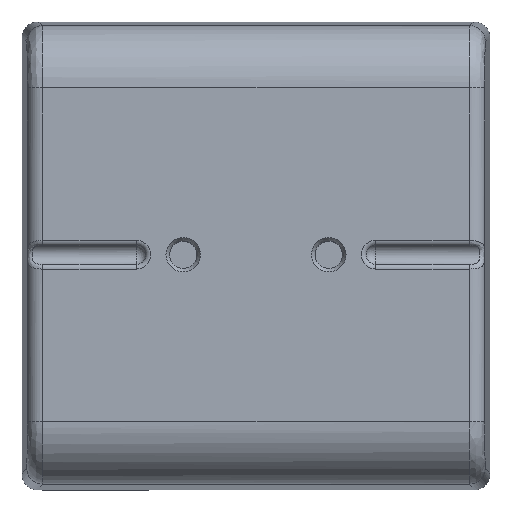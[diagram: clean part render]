
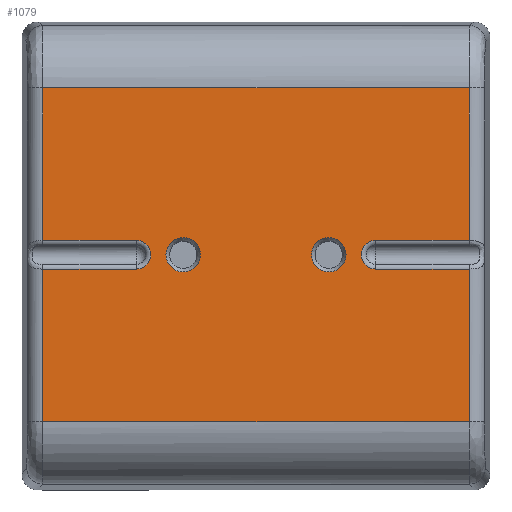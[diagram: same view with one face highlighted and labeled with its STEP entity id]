
A CAD part, top view. The second image highlights one B-rep face of the part: STEP entity #1079.
In plain terms, the highlighted planar face has unit normal (0, 0, 1).
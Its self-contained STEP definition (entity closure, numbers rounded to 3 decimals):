
#948=CARTESIAN_POINT('',(-1.75,4.316,63.627));
#949=VERTEX_POINT('',#948);
#950=CARTESIAN_POINT('',(-1.75,5.975,63.627));
#951=DIRECTION('',(0.0,0.0,1.0));
#952=DIRECTION('',(0.0,1.0,0.0));
#953=AXIS2_PLACEMENT_3D('',#950,#951,#952);
#954=CIRCLE('',#953,1.659);
#955=EDGE_CURVE('',#949,#949,#954,.T.);
#960=CARTESIAN_POINT('',(-8.75,5.975,63.627));
#961=DIRECTION('',(0.0,0.0,1.0));
#962=DIRECTION('',(1.0,0.0,0.0));
#963=AXIS2_PLACEMENT_3D('',#960,#961,#962);
#964=PLANE('',#963);
#965=CARTESIAN_POINT('',(11.761,7.35,63.627));
#966=VERTEX_POINT('',#965);
#967=CARTESIAN_POINT('',(2.75,7.35,63.627));
#968=VERTEX_POINT('',#967);
#969=CARTESIAN_POINT('',(11.761,7.35,63.627));
#970=DIRECTION('',(-1.0,0.0,0.0));
#971=VECTOR('',#970,9.011);
#972=LINE('',#969,#971);
#973=EDGE_CURVE('',#966,#968,#972,.T.);
#974=ORIENTED_EDGE('',*,*,#973,.F.);
#975=CARTESIAN_POINT('',(11.761,22.02,63.627));
#976=VERTEX_POINT('',#975);
#977=CARTESIAN_POINT('',(11.761,22.02,63.627));
#978=DIRECTION('',(0.0,-1.0,0.0));
#979=VECTOR('',#978,14.67);
#980=LINE('',#977,#979);
#981=EDGE_CURVE('',#976,#966,#980,.T.);
#982=ORIENTED_EDGE('',*,*,#981,.F.);
#983=CARTESIAN_POINT('',(-29.261,22.02,63.627));
#984=VERTEX_POINT('',#983);
#985=CARTESIAN_POINT('',(-29.261,22.02,63.627));
#986=DIRECTION('',(1.0,0.0,0.0));
#987=VECTOR('',#986,41.022);
#988=LINE('',#985,#987);
#989=EDGE_CURVE('',#984,#976,#988,.T.);
#990=ORIENTED_EDGE('',*,*,#989,.F.);
#991=CARTESIAN_POINT('',(-29.261,7.35,63.627));
#992=VERTEX_POINT('',#991);
#993=CARTESIAN_POINT('',(-29.261,7.35,63.627));
#994=DIRECTION('',(0.0,1.0,0.0));
#995=VECTOR('',#994,14.67);
#996=LINE('',#993,#995);
#997=EDGE_CURVE('',#992,#984,#996,.T.);
#998=ORIENTED_EDGE('',*,*,#997,.F.);
#999=CARTESIAN_POINT('',(-20.25,7.35,63.627));
#1000=VERTEX_POINT('',#999);
#1001=CARTESIAN_POINT('',(-20.25,7.35,63.627));
#1002=DIRECTION('',(-1.0,0.0,0.0));
#1003=VECTOR('',#1002,9.011);
#1004=LINE('',#1001,#1003);
#1005=EDGE_CURVE('',#1000,#992,#1004,.T.);
#1006=ORIENTED_EDGE('',*,*,#1005,.F.);
#1007=CARTESIAN_POINT('',(-20.25,4.6,63.627));
#1008=VERTEX_POINT('',#1007);
#1009=CARTESIAN_POINT('',(-20.25,5.975,63.627));
#1010=DIRECTION('',(0.0,0.0,1.0));
#1011=DIRECTION('',(1.0,0.0,0.0));
#1012=AXIS2_PLACEMENT_3D('',#1009,#1010,#1011);
#1013=CIRCLE('',#1012,1.375);
#1014=EDGE_CURVE('',#1008,#1000,#1013,.T.);
#1015=ORIENTED_EDGE('',*,*,#1014,.F.);
#1016=CARTESIAN_POINT('',(-29.261,4.6,63.627));
#1017=VERTEX_POINT('',#1016);
#1018=CARTESIAN_POINT('',(-29.261,4.6,63.627));
#1019=DIRECTION('',(1.0,0.0,0.0));
#1020=VECTOR('',#1019,9.011);
#1021=LINE('',#1018,#1020);
#1022=EDGE_CURVE('',#1017,#1008,#1021,.T.);
#1023=ORIENTED_EDGE('',*,*,#1022,.F.);
#1024=CARTESIAN_POINT('',(-29.261,-10.07,63.627));
#1025=VERTEX_POINT('',#1024);
#1026=CARTESIAN_POINT('',(-29.261,-10.07,63.627));
#1027=DIRECTION('',(0.0,1.0,0.0));
#1028=VECTOR('',#1027,14.67);
#1029=LINE('',#1026,#1028);
#1030=EDGE_CURVE('',#1025,#1017,#1029,.T.);
#1031=ORIENTED_EDGE('',*,*,#1030,.F.);
#1032=CARTESIAN_POINT('',(11.761,-10.07,63.627));
#1033=VERTEX_POINT('',#1032);
#1034=CARTESIAN_POINT('',(11.761,-10.07,63.627));
#1035=DIRECTION('',(-1.0,0.0,0.0));
#1036=VECTOR('',#1035,41.022);
#1037=LINE('',#1034,#1036);
#1038=EDGE_CURVE('',#1033,#1025,#1037,.T.);
#1039=ORIENTED_EDGE('',*,*,#1038,.F.);
#1040=CARTESIAN_POINT('',(11.761,4.6,63.627));
#1041=VERTEX_POINT('',#1040);
#1042=CARTESIAN_POINT('',(11.761,4.6,63.627));
#1043=DIRECTION('',(0.0,-1.0,0.0));
#1044=VECTOR('',#1043,14.67);
#1045=LINE('',#1042,#1044);
#1046=EDGE_CURVE('',#1041,#1033,#1045,.T.);
#1047=ORIENTED_EDGE('',*,*,#1046,.F.);
#1048=CARTESIAN_POINT('',(2.75,4.6,63.627));
#1049=VERTEX_POINT('',#1048);
#1050=CARTESIAN_POINT('',(2.75,4.6,63.627));
#1051=DIRECTION('',(1.0,0.0,0.0));
#1052=VECTOR('',#1051,9.011);
#1053=LINE('',#1050,#1052);
#1054=EDGE_CURVE('',#1049,#1041,#1053,.T.);
#1055=ORIENTED_EDGE('',*,*,#1054,.F.);
#1056=CARTESIAN_POINT('',(2.75,5.975,63.627));
#1057=DIRECTION('',(0.0,0.0,1.0));
#1058=DIRECTION('',(-1.0,0.0,0.0));
#1059=AXIS2_PLACEMENT_3D('',#1056,#1057,#1058);
#1060=CIRCLE('',#1059,1.375);
#1061=EDGE_CURVE('',#968,#1049,#1060,.T.);
#1062=ORIENTED_EDGE('',*,*,#1061,.F.);
#1063=EDGE_LOOP('',(#974,#982,#990,#998,#1006,#1015,#1023,#1031,#1039,#1047,#1055,#1062));
#1064=FACE_OUTER_BOUND('',#1063,.T.);
#1065=CARTESIAN_POINT('',(-15.75,4.316,63.627));
#1066=VERTEX_POINT('',#1065);
#1067=CARTESIAN_POINT('',(-15.75,5.975,63.627));
#1068=DIRECTION('',(0.0,0.0,1.0));
#1069=DIRECTION('',(0.0,1.0,0.0));
#1070=AXIS2_PLACEMENT_3D('',#1067,#1068,#1069);
#1071=CIRCLE('',#1070,1.659);
#1072=EDGE_CURVE('',#1066,#1066,#1071,.T.);
#1073=ORIENTED_EDGE('',*,*,#1072,.F.);
#1074=EDGE_LOOP('',(#1073));
#1075=FACE_BOUND('',#1074,.T.);
#1076=ORIENTED_EDGE('',*,*,#955,.F.);
#1077=EDGE_LOOP('',(#1076));
#1078=FACE_BOUND('',#1077,.T.);
#1079=ADVANCED_FACE('',(#1064,#1075,#1078),#964,.T.);
